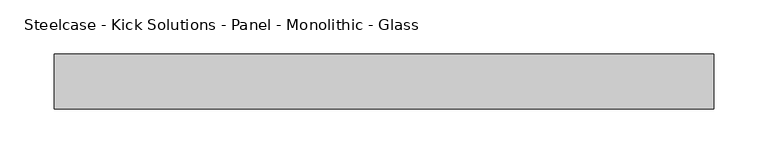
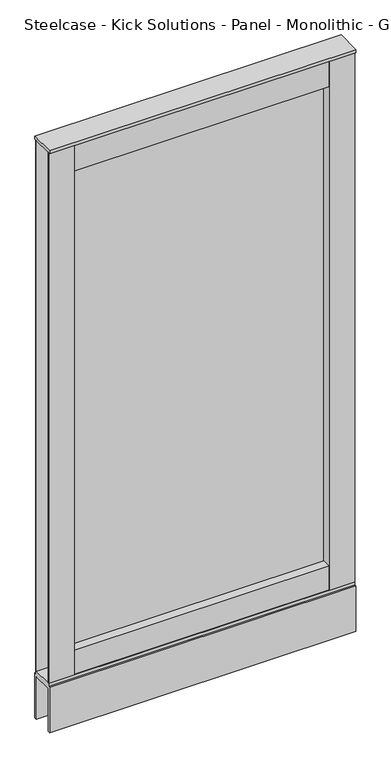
"""IFC4 building model written with IfcOpenShell, lengths in millimetres: furniture geometry, Steelcase - Kick Solutions - Panel - Monolithic - Glass : 48H x 24W."""

from ifc_helpers import new_model, si_unit, frame, origin, place, context, project, spatial, polyline, outline, extrude, source, transform, mapped, element, save


def steelcase_kick_solutions_panel_monolithic_glass_96a50572(model_context):
    return source(origin(), model_context, "Body", "SweptSolid", [
        extrude(outline(polyline([(558.8006661, -5.08), (558.8006661, -45.7200015), (50.8006646, -45.7200015), (50.8006646, -5.08), (558.8006661, -5.08)])), frame((0.0, 0.0, 101.7169049), z_axis=(0.0, 0.0, 1.0), x_axis=(1.0, 0.0, 0.0)), (0.0, 0.0, 1.0), 50.6830951),
        extrude(outline(polyline([(558.8006661, -5.08), (558.8006661, -45.7200015), (50.8006646, -45.7200015), (50.8006646, -5.08), (558.8006661, -5.08)])), frame((0.0, 0.0, 1162.05), z_axis=(0.0, 0.0, 1.0), x_axis=(1.0, 0.0, 0.0)), (0.0, 0.0, 1.0), 57.15),
        extrude(outline(polyline([(50.8006646, -3.1743148), (50.8006646, -47.6243142), (0.0, -47.6243142), (0.0, -45.7200015), (47.7526646, -45.7200015), (47.7526646, -5.08), (0.0, -5.08), (0.0, -3.1743148), (50.8006646, -3.1743148)])), frame((0.0, 0.0, 101.7169049), z_axis=(0.0, 0.0, 1.0), x_axis=(1.0, 0.0, 0.0)), (0.0, 0.0, 1.0), 1117.4830951),
        extrude(outline(polyline([(558.8006661, -3.1743148), (609.6, -3.1743148), (609.6, -5.08), (561.8486661, -5.08), (561.8486661, -45.7200015), (609.6, -45.7200015), (609.6, -47.6243142), (558.8006661, -47.6243142), (558.8006661, -3.1743148)])), frame((0.0, 0.0, 101.7169049), z_axis=(0.0, 0.0, 1.0), x_axis=(1.0, 0.0, 0.0)), (0.0, 0.0, 1.0), 1117.4830951),
        extrude(outline(polyline([(558.8006661, -28.422537), (50.8006646, -28.422537), (50.8006646, -25.4), (558.8006661, -25.4), (558.8006661, -28.422537)])), frame((0.0, 0.0, 152.4), z_axis=(0.0, 0.0, 1.0), x_axis=(1.0, 0.0, 0.0)), (0.0, 0.0, 1.0), 1009.65),
        extrude(outline(polyline([(609.6, 0.0), (609.6, -50.8000015), (0.0, -50.8000015), (0.0, 0.0), (609.6, 0.0)])), frame((0.0, 0.0, 1219.2), z_axis=(0.0, 0.0, 1.0), x_axis=(1.0, 0.0, 0.0)), (0.0, 0.0, 1.0), 6.35),
        extrude(outline(polyline([(0.0, 0.0), (-5.08, 0.0), (-5.08, 90.2869018), (-45.7200015, 90.2869018), (-45.7200015, 0.0), (-50.8000015, 0.0), (-50.8000015, 95.3669018), (-47.6243142, 95.3669018), (-47.6243142, 101.7169049), (-3.1743148, 101.7169049), (-3.1743148, 95.3669018), (0.0, 95.3669018), (0.0, 0.0)])), frame((0.0, 0.0, 0.0), z_axis=(1.0, 0.0, 0.0), x_axis=(0.0, 1.0, 0.0)), (0.0, 0.0, 1.0), 609.6),
    ])


if __name__ == "__main__":
    model = new_model("IFC4")
    model_context = context("Model", 3, world=origin())
    ifc_project = project(units=[si_unit("LENGTHUNIT", "METRE", prefix="MILLI")], contexts=[model_context])
    site = spatial("IfcSite", under=ifc_project)
    building = spatial("IfcBuilding", under=site)
    placement = place(None, origin())
    steelcase_kick_solutions_panel_monolithic_glass_shape = steelcase_kick_solutions_panel_monolithic_glass_96a50572(model_context)
    element("IfcFurniture", 1, ObjectType="Steelcase - Kick Solutions - Panel - Monolithic - Glass : 48H x 24W", at=placement, inside=building, context=model_context, shape_type="MappedRepresentation", body=[
        mapped(steelcase_kick_solutions_panel_monolithic_glass_shape, transform((0.0, 0.0, 0.0), x_axis=(1.0, 0.0, 0.0), y_axis=(0.0, 1.0, 0.0), z_axis=(0.0, 0.0, 1.0))),
    ])
    save(model, "model.ifc")
